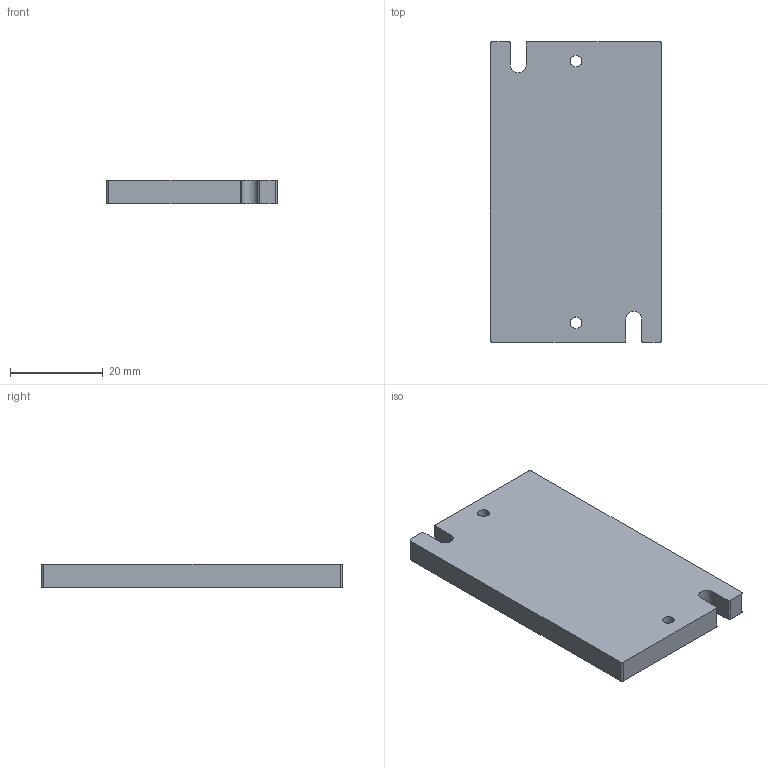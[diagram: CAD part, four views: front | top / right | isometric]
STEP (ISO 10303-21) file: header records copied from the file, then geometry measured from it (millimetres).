
FILE_DESCRIPTION (( 'STEP AP214' ), '1' );
FILE_NAME ('Riser block.STEP', '2026-04-07T07:02:52', ( 'User' ), ( 'China' ), 'SwSTEP 2.0', 'SolidWorks 2020', '' );
FILE_SCHEMA (( 'AUTOMOTIVE_DESIGN' ));
Length unit declared in the file: millimetre
Products named in the file (1): Riser block
Bounding box: 37 x 65 x 5 mm (x, y, z)
Volume: 11751.3 mm3; surface area: 5912.2 mm2
Topology: 1 solids, 1 shells, 26 faces, 72 edges, 48 vertices
Faces by surface type: cylinder 14, plane 12
Entity records: 930 total; most frequent: DIRECTION 154, CARTESIAN_POINT 147, ORIENTED_EDGE 144, EDGE_CURVE 72, AXIS2_PLACEMENT_3D 55, VERTEX_POINT 48, LINE 44, VECTOR 44
